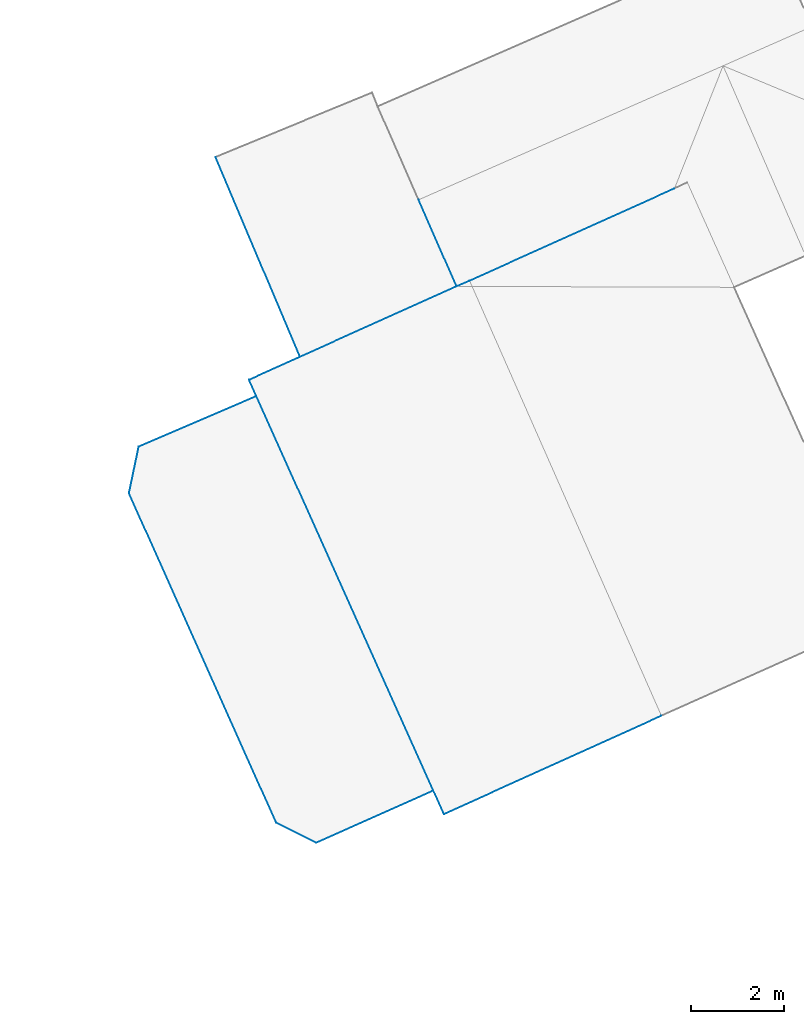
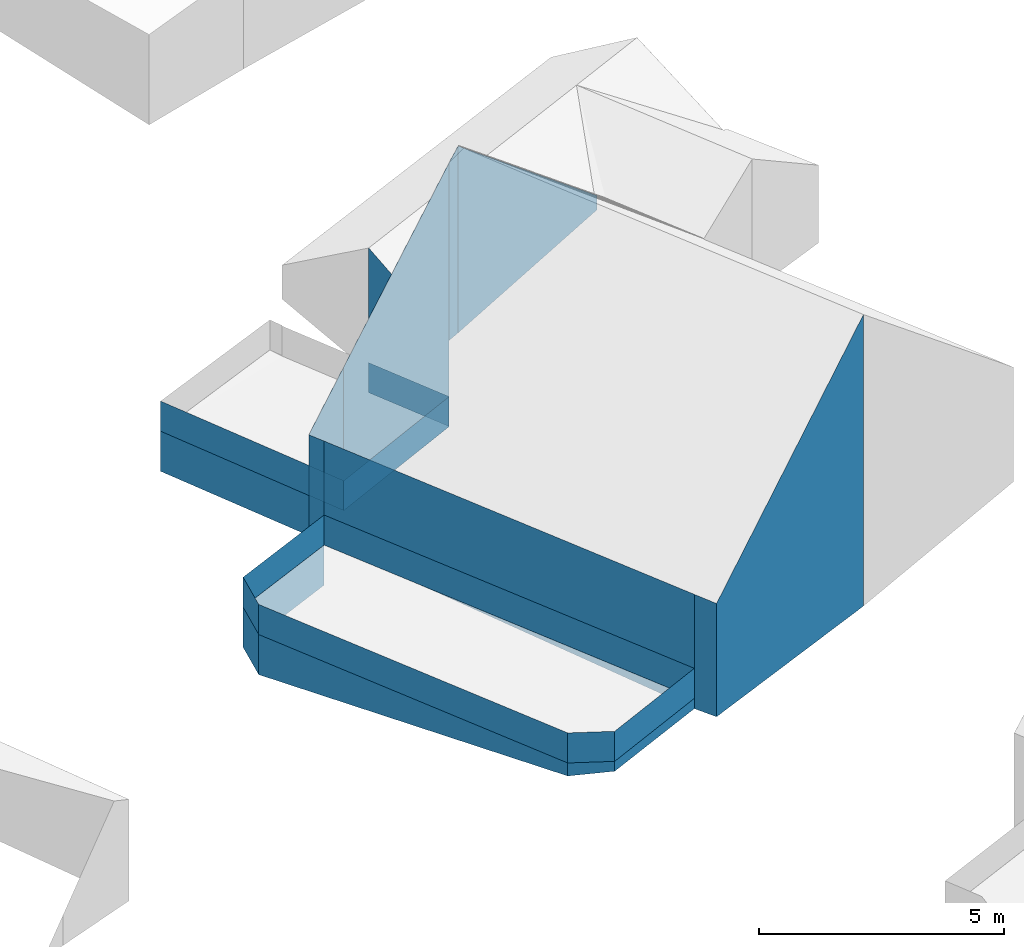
# Not in any storey, part 34 of 57: 33 walls.
"""IFC2X3 building model written with IfcOpenShell, lengths in metres."""

from ifc_helpers import new_model, entity, si_unit, converted_unit, frame, origin, place, context, subcontext, project, spatial, face_set, surface_model, element, save


model = new_model("IFC2X3")

# Units and contexts
model_context = context("Model", 3, precision=1e-05, world=origin())
body_context = subcontext(model_context, "Body", "Model", "MODEL_VIEW")
ifc_project = project(units=[converted_unit("PLANEANGLEUNIT", "DEGREE", entity("IfcRatioMeasure", 0.0174532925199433), si_unit("PLANEANGLEUNIT", "RADIAN"), dimensions=[0, 0, 0, 0, 0, 0, 0]), si_unit("AREAUNIT", "SQUARE_METRE"), si_unit("LENGTHUNIT", "METRE")], contexts=[model_context])

# Site, building
site_placement = place(None, origin())
site = spatial("IfcSite", under=ifc_project, at=site_placement, Name="_site", CompositionType="ELEMENT")
building_1_placement = place(site_placement, origin())
building_1 = spatial("IfcBuilding", under=site, at=building_1_placement, Name="_building", CompositionType="ELEMENT")

# Walls
wall_1_placement = place(building_1_placement, origin())
element("IfcWall", 1, at=wall_1_placement, inside=building_1, Name="Wall", context=body_context, shape_type="SurfaceModel", body=[
    surface_model("IfcFaceBasedSurfaceModel", [(233.41, 232.119, 223.3), (237.83, 234.109, 219.314), (237.83, 234.109, 218.95), (233.41, 232.119, 218.639)], [face_set([[[0, 1, 2, 3]]])]),
])
wall_2_placement = place(building_1_placement, origin())
element("IfcWall", 2, at=wall_2_placement, inside=building_1, Name="Wall", context=body_context, shape_type="SurfaceModel", body=[
    surface_model("IfcFaceBasedSurfaceModel", [(233.13, 232.0, 223.06), (233.41, 232.119, 223.3), (233.41, 232.119, 218.639), (233.13, 232.0, 218.62)], [face_set([[[0, 1, 2, 3]]])]),
])
wall_3_placement = place(building_1_placement, origin())
element("IfcWall", 3, at=wall_3_placement, inside=building_1, Name="Wall", context=body_context, shape_type="SurfaceModel", body=[
    surface_model("IfcFaceBasedSurfaceModel", [(229.751, 230.478, 220.043), (233.13, 232.0, 223.06), (233.13, 232.0, 216.875), (229.751, 230.478, 216.569)], [face_set([[[0, 1, 2, 3]]])]),
])
wall_4_placement = place(building_1_placement, origin())
element("IfcWall", 4, at=wall_4_placement, inside=building_1, Name="Wall", context=body_context, shape_type="SurfaceModel", body=[
    surface_model("IfcFaceBasedSurfaceModel", [(233.13, 232.0, 218.62), (232.31, 233.869, 220.08), (232.31, 233.869, 216.994), (233.13, 232.0, 216.875)], [face_set([[[0, 1, 2, 3]]])]),
])
for number, where, name in (
    (5, (0.0, 0.0, 0.0), "Wall"),
    (6, (0.0, 0.0, 0.0), "Wall"),
):
    element("IfcWall", number, at=place(building_1_placement, frame(where)), inside=building_1, Name=name, context=body_context, shape_type="SurfaceModel", body=[
        surface_model("IfcFaceBasedSurfaceModel", [(229.751, 230.478, 216.486), (227.93, 234.789, 216.486), (227.93, 234.789, 217.236), (229.751, 230.478, 217.236)], [face_set([[[0, 1, 2, 3]]])]),
    ])
for number, where, name in (
    (7, (0.0, 0.0, 0.0), "Wall"),
    (8, (0.0, 0.0, 0.0), "Wall"),
):
    element("IfcWall", number, at=place(building_1_placement, frame(where)), inside=building_1, Name=name, context=body_context, shape_type="SurfaceModel", body=[
        surface_model("IfcFaceBasedSurfaceModel", [(232.31, 233.869, 216.47), (233.13, 232.0, 216.47), (233.13, 232.0, 217.22), (232.31, 233.869, 217.22)], [face_set([[[0, 1, 2, 3]]])]),
    ])
wall_5_placement = place(building_1_placement, origin())
element("IfcWall", 9, at=wall_5_placement, inside=building_1, Name="Wall", context=body_context, shape_type="SurfaceModel", body=[
    surface_model("IfcFaceBasedSurfaceModel", [(229.751, 230.478, 216.486), (227.93, 234.789, 216.486), (227.93, 234.789, 215.486), (229.751, 230.478, 215.486)], [face_set([[[0, 1, 2, 3]]])]),
])

# Building
building_2_placement = place(site_placement, origin())
building_2 = spatial("IfcBuilding", under=site, at=building_2_placement, Name="_building", CompositionType="ELEMENT")

# Walls
wall_6_placement = place(building_2_placement, origin())
element("IfcWall", 10, at=wall_6_placement, inside=building_2, Name="Wall", context=body_context, shape_type="SurfaceModel", body=[
    surface_model("IfcFaceBasedSurfaceModel", [(237.55, 222.73, 223.34), (232.86, 220.609, 219.06), (232.86, 220.609, 216.235), (237.55, 222.73, 216.068)], [face_set([[[0, 1, 2, 3]]])]),
])
wall_7_placement = place(building_2_placement, origin())
element("IfcWall", 11, at=wall_7_placement, inside=building_2, Name="Wall", context=body_context, shape_type="SurfaceModel", body=[
    surface_model("IfcFaceBasedSurfaceModel", [(228.65, 229.98, 219.06), (229.751, 230.478, 220.043), (229.751, 230.478, 216.569), (228.65, 229.98, 216.581)], [face_set([[[0, 1, 2, 3]]])]),
])
wall_8_placement = place(building_2_placement, origin())
element("IfcWall", 12, at=wall_8_placement, inside=building_2, Name="Wall", context=body_context, shape_type="SurfaceModel", body=[
    surface_model("IfcFaceBasedSurfaceModel", [(228.81, 229.631, 219.06), (228.65, 229.98, 219.06), (228.65, 229.98, 216.581), (228.81, 229.631, 216.555)], [face_set([[[0, 1, 2, 3]]])]),
])
wall_9_placement = place(building_2_placement, origin())
element("IfcWall", 13, at=wall_9_placement, inside=building_2, Name="Wall", context=body_context, shape_type="SurfaceModel", body=[
    surface_model("IfcFaceBasedSurfaceModel", [(232.63, 221.119, 219.06), (228.81, 229.631, 219.06), (228.81, 229.631, 216.555), (232.63, 221.119, 216.21)], [face_set([[[0, 1, 2, 3]]])]),
])
wall_10_placement = place(building_2_placement, origin())
element("IfcWall", 14, at=wall_10_placement, inside=building_2, Name="Wall", context=body_context, shape_type="SurfaceModel", body=[
    surface_model("IfcFaceBasedSurfaceModel", [(232.86, 220.609, 219.06), (232.63, 221.119, 219.06), (232.63, 221.119, 216.21), (232.86, 220.609, 216.235)], [face_set([[[0, 1, 2, 3]]])]),
])
for number, where, name in (
    (15, (0.0, 0.0, 0.0), "Wall"),
    (16, (0.0, 0.0, 0.0), "Wall"),
):
    element("IfcWall", number, at=place(building_2_placement, frame(where)), inside=building_2, Name=name, context=body_context, shape_type="SurfaceModel", body=[
        surface_model("IfcFaceBasedSurfaceModel", [(233.13, 232.0, 216.47), (229.751, 230.478, 216.47), (229.751, 230.478, 217.22), (233.13, 232.0, 217.22)], [face_set([[[0, 1, 2, 3]]])]),
    ])
wall_11_placement = place(building_2_placement, origin())
element("IfcWall", 17, at=wall_11_placement, inside=building_2, Name="Wall", context=body_context, shape_type="SurfaceModel", body=[
    surface_model("IfcFaceBasedSurfaceModel", [(226.27, 228.539, 216.465), (228.81, 229.631, 216.465), (228.81, 229.631, 217.215), (226.27, 228.539, 217.215)], [face_set([[[0, 1, 2, 3]]])]),
])
wall_12_placement = place(building_2_placement, origin())
element("IfcWall", 18, at=wall_12_placement, inside=building_2, Name="Wall", context=body_context, shape_type="SurfaceModel", body=[
    surface_model("IfcFaceBasedSurfaceModel", [(226.06, 227.539, 216.465), (226.27, 228.539, 216.465), (226.27, 228.539, 217.215), (226.06, 227.539, 217.215)], [face_set([[[0, 1, 2, 3]]])]),
])
wall_13_placement = place(building_2_placement, origin())
element("IfcWall", 19, at=wall_13_placement, inside=building_2, Name="Wall", context=body_context, shape_type="SurfaceModel", body=[
    surface_model("IfcFaceBasedSurfaceModel", [(229.24, 220.42, 216.465), (226.06, 227.539, 216.465), (226.06, 227.539, 217.215), (229.24, 220.42, 217.215)], [face_set([[[0, 1, 2, 3]]])]),
])
wall_14_placement = place(building_2_placement, origin())
element("IfcWall", 20, at=wall_14_placement, inside=building_2, Name="Wall", context=body_context, shape_type="SurfaceModel", body=[
    surface_model("IfcFaceBasedSurfaceModel", [(230.1, 219.99, 216.465), (229.24, 220.42, 216.465), (229.24, 220.42, 217.215), (230.1, 219.99, 217.215)], [face_set([[[0, 1, 2, 3]]])]),
])
wall_15_placement = place(building_2_placement, origin())
element("IfcWall", 21, at=wall_15_placement, inside=building_2, Name="Wall", context=body_context, shape_type="SurfaceModel", body=[
    surface_model("IfcFaceBasedSurfaceModel", [(232.63, 221.119, 216.465), (230.1, 219.99, 216.465), (230.1, 219.99, 217.215), (232.63, 221.119, 217.215)], [face_set([[[0, 1, 2, 3]]])]),
])
wall_16_placement = place(building_2_placement, origin())
element("IfcWall", 22, at=wall_16_placement, inside=building_2, Name="Wall", context=body_context, shape_type="SurfaceModel", body=[
    surface_model("IfcFaceBasedSurfaceModel", [(226.27, 228.539, 216.465), (228.81, 229.631, 216.465), (228.81, 229.631, 217.215), (226.27, 228.539, 217.215)], [face_set([[[0, 1, 2, 3]]])]),
])
wall_17_placement = place(building_2_placement, origin())
element("IfcWall", 23, at=wall_17_placement, inside=building_2, Name="Wall", context=body_context, shape_type="SurfaceModel", body=[
    surface_model("IfcFaceBasedSurfaceModel", [(226.06, 227.539, 216.465), (226.27, 228.539, 216.465), (226.27, 228.539, 217.215), (226.06, 227.539, 217.215)], [face_set([[[0, 1, 2, 3]]])]),
])
wall_18_placement = place(building_2_placement, origin())
element("IfcWall", 24, at=wall_18_placement, inside=building_2, Name="Wall", context=body_context, shape_type="SurfaceModel", body=[
    surface_model("IfcFaceBasedSurfaceModel", [(229.24, 220.42, 216.465), (226.06, 227.539, 216.465), (226.06, 227.539, 217.215), (229.24, 220.42, 217.215)], [face_set([[[0, 1, 2, 3]]])]),
])
wall_19_placement = place(building_2_placement, origin())
element("IfcWall", 25, at=wall_19_placement, inside=building_2, Name="Wall", context=body_context, shape_type="SurfaceModel", body=[
    surface_model("IfcFaceBasedSurfaceModel", [(230.1, 219.99, 216.465), (229.24, 220.42, 216.465), (229.24, 220.42, 217.215), (230.1, 219.99, 217.215)], [face_set([[[0, 1, 2, 3]]])]),
])
wall_20_placement = place(building_2_placement, origin())
element("IfcWall", 26, at=wall_20_placement, inside=building_2, Name="Wall", context=body_context, shape_type="SurfaceModel", body=[
    surface_model("IfcFaceBasedSurfaceModel", [(232.63, 221.119, 216.465), (230.1, 219.99, 216.465), (230.1, 219.99, 217.215), (232.63, 221.119, 217.215)], [face_set([[[0, 1, 2, 3]]])]),
])
for number, where, name in (
    (27, (0.0, 0.0, 0.0), "Wall"),
    (28, (0.0, 0.0, 0.0), "Wall"),
):
    element("IfcWall", number, at=place(building_2_placement, frame(where)), inside=building_2, Name=name, context=body_context, shape_type="SurfaceModel", body=[
        surface_model("IfcFaceBasedSurfaceModel", [(228.81, 229.631, 216.465), (232.63, 221.119, 216.465), (232.63, 221.119, 217.215), (228.81, 229.631, 217.215)], [face_set([[[0, 1, 2, 3]]])]),
    ])
wall_21_placement = place(building_2_placement, origin())
element("IfcWall", 29, at=wall_21_placement, inside=building_2, Name="Wall", context=body_context, shape_type="SurfaceModel", body=[
    surface_model("IfcFaceBasedSurfaceModel", [(232.63, 221.119, 216.465), (230.1, 219.99, 216.465), (230.1, 219.99, 216.219), (232.63, 221.119, 216.21)], [face_set([[[0, 1, 2, 3]]])]),
])
wall_22_placement = place(building_2_placement, origin())
element("IfcWall", 30, at=wall_22_placement, inside=building_2, Name="Wall", context=body_context, shape_type="SurfaceModel", body=[
    surface_model("IfcFaceBasedSurfaceModel", [(230.1, 219.99, 216.465), (229.24, 220.42, 216.465), (229.24, 220.42, 216.14), (230.1, 219.99, 216.219)], [face_set([[[0, 1, 2, 3]]])]),
])
wall_23_placement = place(building_2_placement, origin())
element("IfcWall", 31, at=wall_23_placement, inside=building_2, Name="Wall", context=body_context, shape_type="SurfaceModel", body=[
    surface_model("IfcFaceBasedSurfaceModel", [(226.27, 228.539, 216.465), (228.81, 229.631, 216.465), (228.81, 229.631, 215.465), (226.27, 228.539, 215.465)], [face_set([[[0, 1, 2, 3]]])]),
])
wall_24_placement = place(building_2_placement, origin())
element("IfcWall", 32, at=wall_24_placement, inside=building_2, Name="Wall", context=body_context, shape_type="SurfaceModel", body=[
    surface_model("IfcFaceBasedSurfaceModel", [(226.06, 227.539, 216.465), (226.27, 228.539, 216.465), (226.27, 228.539, 215.465), (226.06, 227.539, 215.465)], [face_set([[[0, 1, 2, 3]]])]),
])
wall_25_placement = place(building_2_placement, origin())
element("IfcWall", 33, at=wall_25_placement, inside=building_2, Name="Wall", context=body_context, shape_type="SurfaceModel", body=[
    surface_model("IfcFaceBasedSurfaceModel", [(229.24, 220.42, 216.465), (226.06, 227.539, 216.465), (226.06, 227.539, 215.465), (229.24, 220.42, 216.14)], [face_set([[[0, 1, 2, 3]]])]),
])

save(model, "model.ifc")
